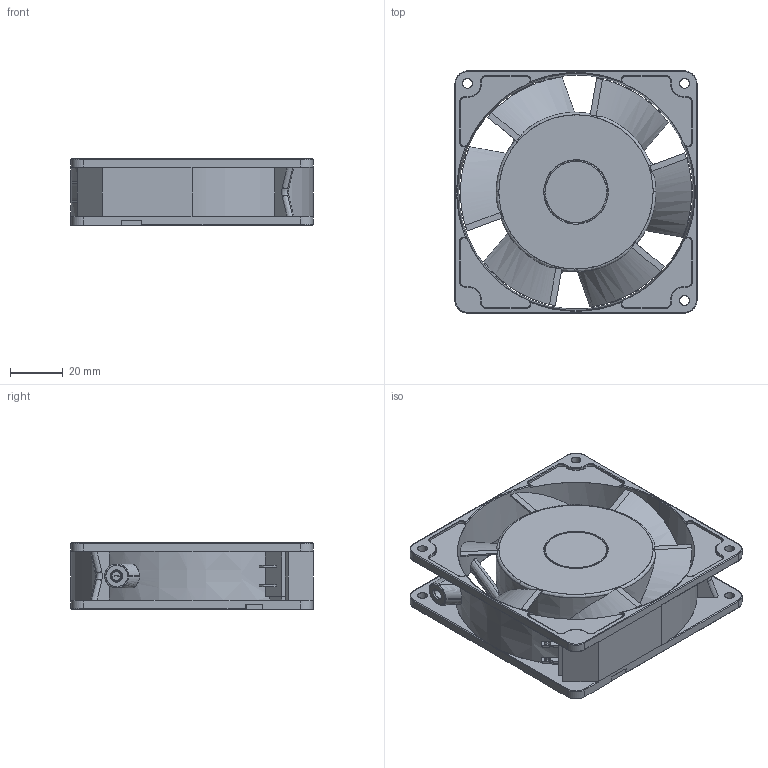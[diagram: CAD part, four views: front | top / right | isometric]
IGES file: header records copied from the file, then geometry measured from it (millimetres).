
Start section: SolidWorks IGES file using analytic representation for surfaces
Bounding box: 92 x 92 x 25.3 mm (x, y, z)
Surface area: 41778.1 mm2 (no closed solid volume)
Topology: 0 solids, 0 shells, 537 faces, 6666 edges, 6652 vertices
Faces by surface type: bspline 324, revolution 213
